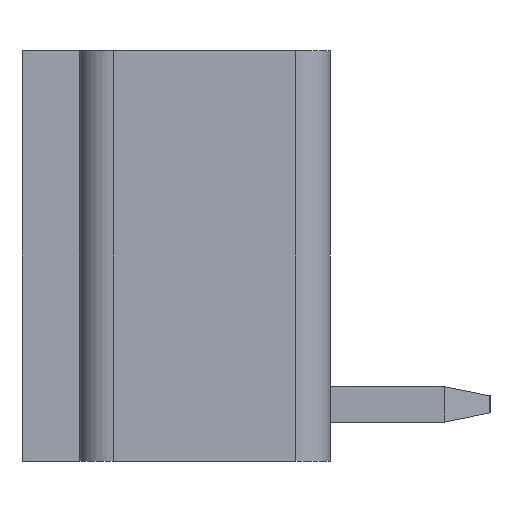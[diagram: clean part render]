
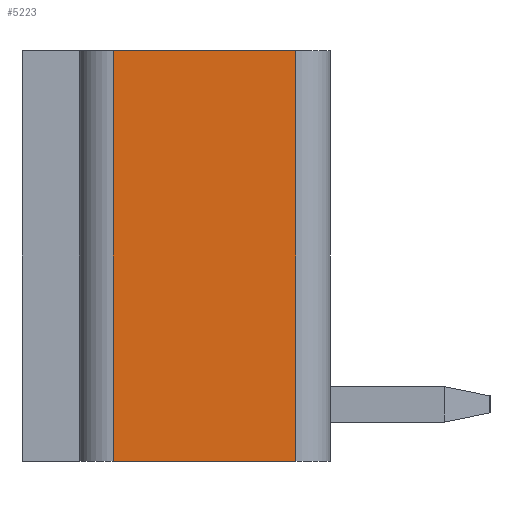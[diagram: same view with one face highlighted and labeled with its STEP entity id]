
A CAD part, left-side view. The second image highlights one B-rep face of the part: STEP entity #5223.
In plain terms, the highlighted planar face has unit normal (-1, 0, 0).
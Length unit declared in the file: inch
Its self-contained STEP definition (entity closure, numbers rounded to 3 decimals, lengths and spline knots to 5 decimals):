
#44=DIRECTION('',(0.,-1.,0.));
#45=VECTOR('',#44,0.16);
#46=CARTESIAN_POINT('',(-0.754,0.19,0.));
#47=LINE('',#46,#45);
#605=DIRECTION('',(0.,-1.,0.));
#606=VECTOR('',#605,0.16);
#607=CARTESIAN_POINT('',(-0.754,0.19,-0.36));
#608=LINE('',#607,#606);
#791=DIRECTION('',(0.,0.,-1.));
#792=VECTOR('',#791,0.36);
#793=CARTESIAN_POINT('',(-0.754,0.03,0.));
#794=LINE('',#793,#792);
#795=DIRECTION('',(0.,0.,-1.));
#796=VECTOR('',#795,0.36);
#797=CARTESIAN_POINT('',(-0.754,0.19,0.));
#798=LINE('',#797,#796);
#3702=CARTESIAN_POINT('',(-0.754,0.03,-0.36));
#3704=VERTEX_POINT('',#3702);
#3705=CARTESIAN_POINT('',(-0.754,0.03,0.));
#3706=VERTEX_POINT('',#3705);
#3709=CARTESIAN_POINT('',(-0.754,0.19,-0.36));
#3711=VERTEX_POINT('',#3709);
#3715=CARTESIAN_POINT('',(-0.754,0.19,0.));
#3716=VERTEX_POINT('',#3715);
#5211=CARTESIAN_POINT('',(-0.754,0.22,0.));
#5212=DIRECTION('',(-1.,0.,0.));
#5213=DIRECTION('',(0.,-1.,0.));
#5214=AXIS2_PLACEMENT_3D('',#5211,#5212,#5213);
#5215=PLANE('',#5214);
#5216=ORIENTED_EDGE('',*,*,#5204,.T.);
#5217=ORIENTED_EDGE('',*,*,#5042,.F.);
#5219=ORIENTED_EDGE('',*,*,#5218,.F.);
#5220=ORIENTED_EDGE('',*,*,#4632,.T.);
#5221=EDGE_LOOP('',(#5216,#5217,#5219,#5220));
#5222=FACE_OUTER_BOUND('',#5221,.F.);
#5223=ADVANCED_FACE('',(#5222),#5215,.T.);
#4632=EDGE_CURVE('',#3716,#3706,#47,.T.);
#5042=EDGE_CURVE('',#3711,#3704,#608,.T.);
#5204=EDGE_CURVE('',#3706,#3704,#794,.T.);
#5218=EDGE_CURVE('',#3716,#3711,#798,.T.);
